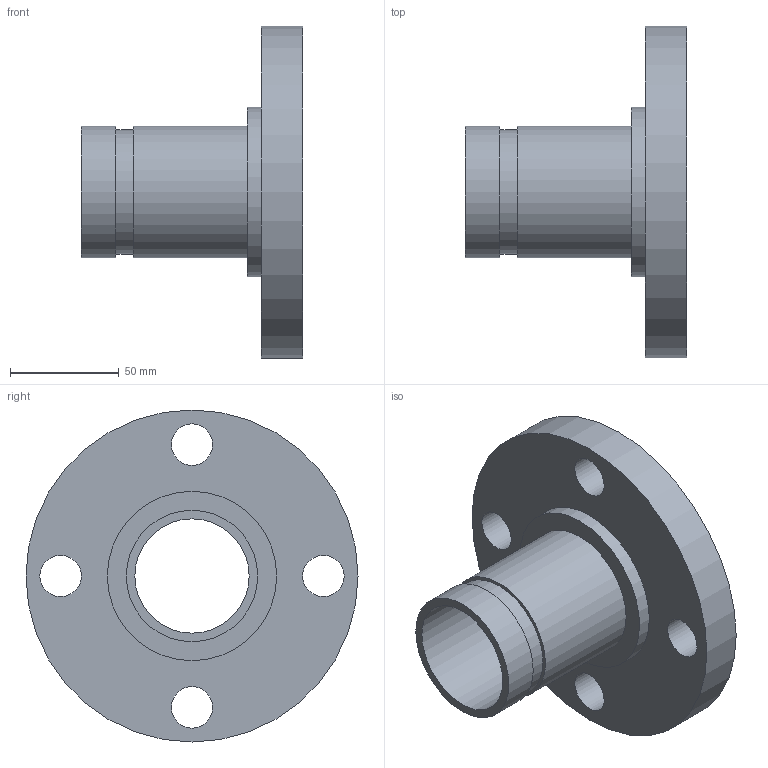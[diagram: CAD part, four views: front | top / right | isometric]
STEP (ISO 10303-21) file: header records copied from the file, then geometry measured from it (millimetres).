
FILE_DESCRIPTION(/* description */ ('VIC FLANGE ADAPTER No 45F','CAx-IF Rec.Pracs.---Representation and Presentation of Product Manufacturing Information (PMI)---4.0---2014-10-13'),/* implementation_level */ '2;1');
FILE_NAME(/* name */ 'C:\Users\kkamble\AppData\Roaming\Autodesk\ApplicationPlugins\Back Up\Victaulic_IPS_Flanged Adapter Nipple_CL 150 FF_No 45F (OGSxFLG)\Victaulic_IPS_Flanged Adapter Nipple_CL 150 FF_No 45F (OGSxFLG)_2 (50).stp',/* time_stamp */ '2020-07-26T22:22:49+06:00',/* author */ ('CONSTRUCTION PIPING SERVICES'),/* organization */ ('Victaulic'),/* preprocessor_version */ 'ST-DEVELOPER v17.2',/* originating_system */ 'Autodesk Inventor 2019',/* authorisation */ '');
FILE_SCHEMA (('AP242_MANAGED_MODEL_BASED_3D_ENGINEERING_MIM_LF { 1 0 10303 442 1 1 4 }'));
Length unit declared in the file: inch
Products named in the file (1): 045F-02.0
Bounding box: 101.6 x 152.4 x 152.4 mm (x, y, z)
Volume: 351417.3 mm3; surface area: 76810.2 mm2
Topology: 1 solids, 1 shells, 16 faces, 42 edges, 32 vertices
Faces by surface type: cylinder 10, plane 6
Full cylindrical faces by diameter (mm): 19.05 x4, 52.502 x1, 57.15 x1, 60.325 x2, 77.724 x1, 152.4 x1
Entity records: 622 total; most frequent: DIRECTION 108, CARTESIAN_POINT 91, ORIENTED_EDGE 84, AXIS2_PLACEMENT_3D 49, EDGE_CURVE 42, CIRCLE 32, VERTEX_POINT 32, EDGE_LOOP 30
